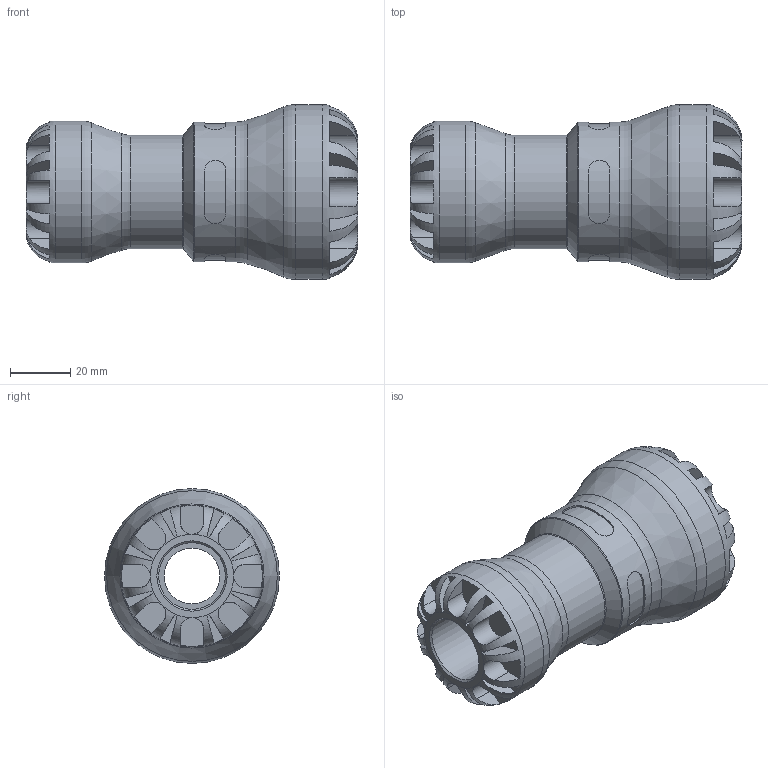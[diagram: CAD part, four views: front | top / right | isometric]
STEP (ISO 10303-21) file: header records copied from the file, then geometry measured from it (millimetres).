
FILE_DESCRIPTION(/* description */ ('PLASSON REDUCING COUPLING 1''''CTS x 3/4''''CTS SERIES 1'),/* implementation_level */ '2;1');
FILE_NAME(/* name */ 'C:\Dropbox\KIMPROJECTS-Inventor 2019\99-16-3568-Processing Inch\ASTM S1 2021\1011Z\1011Z0010007.ipt.stp',/* time_stamp */ '2021-09-02T12:01:00+03:00',/* author */ ('KIM'),/* organization */ (''),/* preprocessor_version */ 'ST-DEVELOPER v17.2',/* originating_system */ 'Autodesk Inventor 2019',/* authorisation */ '');
FILE_SCHEMA (('AUTOMOTIVE_DESIGN { 1 0 10303 214 3 1 1 }'));
Length unit declared in the file: inch
Products named in the file (1): 1011Z0010007
Bounding box: 109.98 x 57.91 x 57.91 mm (x, y, z)
Volume: 125005.7 mm3; surface area: 32047.6 mm2
Topology: 1 solids, 1 shells, 172 faces, 465 edges, 300 vertices
Faces by surface type: plane 108, cylinder 50, torus 8, cone 6
Full cylindrical faces by diameter (mm): 22.1 x1, 28.45 x1, 37.592 x1, 46.33 x1, 46.99 x1, 57.912 x1
Entity records: 6993 total; most frequent: CARTESIAN_POINT 2484, ORIENTED_EDGE 930, DIRECTION 895, EDGE_CURVE 465, AXIS2_PLACEMENT_3D 369, VERTEX_POINT 300, CIRCLE 196, EDGE_LOOP 179
